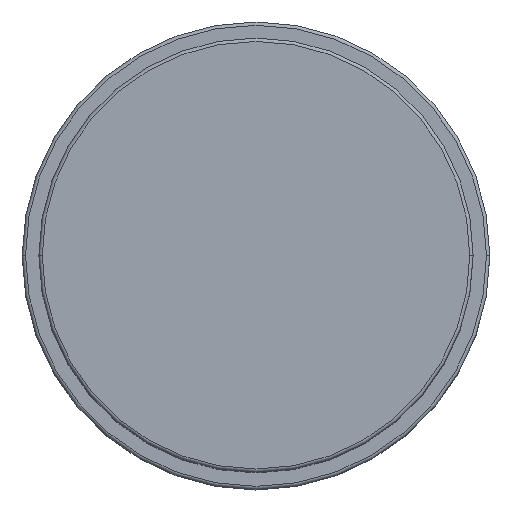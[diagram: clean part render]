
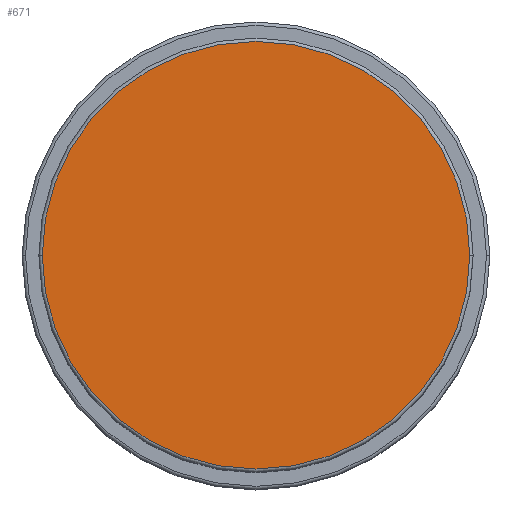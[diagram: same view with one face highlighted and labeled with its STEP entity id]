
A CAD part, top view. The second image highlights one B-rep face of the part: STEP entity #671.
In plain terms, the highlighted planar face has unit normal (0, 0, 1).
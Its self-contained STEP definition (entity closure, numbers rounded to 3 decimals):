
#69 = DIRECTION ( 'NONE',  ( 0., 0., 1. ) ) ;
#75 = PLANE ( 'NONE',  #1032 ) ;
#136 = DIRECTION ( 'NONE',  ( 1., 0., 0. ) ) ;
#246 = CIRCLE ( 'NONE', #808, 32. ) ;
#258 = DIRECTION ( 'NONE',  ( 1., 0., 0. ) ) ;
#522 = VERTEX_POINT ( 'NONE', #1609 ) ;
#546 = EDGE_LOOP ( 'NONE', ( #1212, #794 ) ) ;
#671 = ADVANCED_FACE ( 'NONE', ( #1123 ), #75, .T. ) ;
#794 = ORIENTED_EDGE ( 'NONE', *, *, #819, .T. ) ;
#808 = AXIS2_PLACEMENT_3D ( 'NONE', #2039, #1871, #136 ) ;
#819 = EDGE_CURVE ( 'NONE', #1044, #522, #1395, .T. ) ;
#1032 = AXIS2_PLACEMENT_3D ( 'NONE', #1672, #69, #258 ) ;
#1044 = VERTEX_POINT ( 'NONE', #1578 ) ;
#1123 = FACE_OUTER_BOUND ( 'NONE', #546, .T. ) ;
#1212 = ORIENTED_EDGE ( 'NONE', *, *, #1794, .T. ) ;
#1234 = CARTESIAN_POINT ( 'NONE',  ( 0., 0., 82. ) ) ;
#1382 = DIRECTION ( 'NONE',  ( 1., 0., 0. ) ) ;
#1395 = CIRCLE ( 'NONE', #1843, 32. ) ;
#1578 = CARTESIAN_POINT ( 'NONE',  ( -32., 0., 82. ) ) ;
#1609 = CARTESIAN_POINT ( 'NONE',  ( 32., 0., 82. ) ) ;
#1672 = CARTESIAN_POINT ( 'NONE',  ( 0., 0., 82. ) ) ;
#1794 = EDGE_CURVE ( 'NONE', #522, #1044, #246, .T. ) ;
#1843 = AXIS2_PLACEMENT_3D ( 'NONE', #1234, #1845, #1382 ) ;
#1845 = DIRECTION ( 'NONE',  ( 0., 0., 1. ) ) ;
#1871 = DIRECTION ( 'NONE',  ( 0., 0., 1. ) ) ;
#2039 = CARTESIAN_POINT ( 'NONE',  ( 0., 0., 82. ) ) ;
